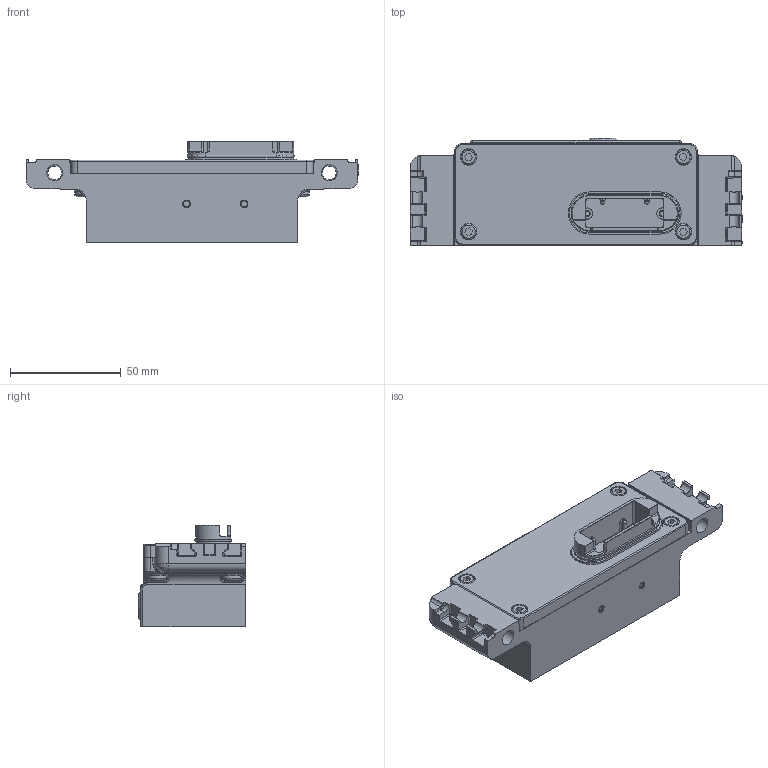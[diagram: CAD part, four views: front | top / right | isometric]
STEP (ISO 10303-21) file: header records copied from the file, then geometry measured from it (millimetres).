
FILE_DESCRIPTION (( 'STEP AP214' ), '1' );
FILE_NAME ('M-46019-01.STEP', '2019-09-13T14:28:41', ( 'user' ), ( '' ), 'SwSTEP 2.0', 'SolidWorks 2014', '' );
FILE_SCHEMA (( 'AUTOMOTIVE_DESIGN' ));
Length unit declared in the file: millimetre
Products named in the file (1): M-46019-01
Bounding box: 150 x 48.5 x 45.95 mm (x, y, z)
Volume: 155360.9 mm3; surface area: 48167.8 mm2
Topology: 9 solids, 9 shells, 1045 faces, 2568 edges, 1586 vertices
Faces by surface type: plane 447, cylinder 270, bspline 221, cone 107
Full cylindrical faces by diameter (mm): 1 x2, 3.7 x7, 7 x4
Entity records: 67104 total; most frequent: CARTESIAN_POINT 32860, ORIENTED_EDGE 4920, DIRECTION 4245, EDGE_CURVE 2460, VERTEX_POINT 1567, AXIS2_PLACEMENT_3D 1462, VECTOR 1321, LINE 1321
